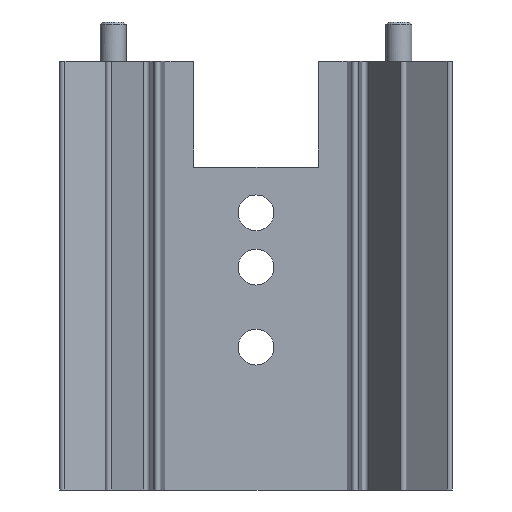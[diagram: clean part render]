
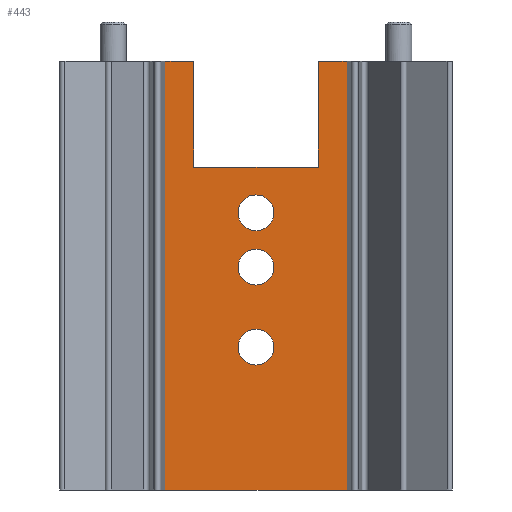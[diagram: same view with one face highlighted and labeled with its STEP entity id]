
A CAD part, front view. The second image highlights one B-rep face of the part: STEP entity #443.
In plain terms, the highlighted planar face has unit normal (0, -1, 0).
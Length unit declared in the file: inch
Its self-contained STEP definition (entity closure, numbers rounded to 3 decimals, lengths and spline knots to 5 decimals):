
#6 = LINE ( 'NONE', #3498, #2923 ) ;
#48 = LINE ( 'NONE', #1147, #2423 ) ;
#54 = ORIENTED_EDGE ( 'NONE', *, *, #3417, .F. ) ;
#69 = EDGE_LOOP ( 'NONE', ( #2694, #2538 ) ) ;
#80 = VERTEX_POINT ( 'NONE', #2569 ) ;
#83 = DIRECTION ( 'NONE',  ( 0., 1., 0. ) ) ;
#92 = VECTOR ( 'NONE', #341, 39.37008 ) ;
#98 = DIRECTION ( 'NONE',  ( 1., 0., 0. ) ) ;
#126 = LINE ( 'NONE', #2019, #676 ) ;
#131 = DIRECTION ( 'NONE',  ( 0., 0., 1. ) ) ;
#135 = DIRECTION ( 'NONE',  ( 1., 0., 0. ) ) ;
#180 = ORIENTED_EDGE ( 'NONE', *, *, #2188, .F. ) ;
#262 = EDGE_CURVE ( 'NONE', #3188, #423, #1806, .T. ) ;
#286 = VECTOR ( 'NONE', #1770, 39.37008 ) ;
#302 = DIRECTION ( 'NONE',  ( 1., 0., 0. ) ) ;
#320 = CARTESIAN_POINT ( 'NONE',  ( 0.2185, -0.03091, 0. ) ) ;
#341 = DIRECTION ( 'NONE',  ( 1., 0., 0. ) ) ;
#349 = EDGE_CURVE ( 'NONE', #1007, #2845, #48, .T. ) ;
#384 = CARTESIAN_POINT ( 'NONE',  ( -0.3189, -0.03091, -0.37008 ) ) ;
#417 = DIRECTION ( 'NONE',  ( 0., 1., 0. ) ) ;
#423 = VERTEX_POINT ( 'NONE', #2520 ) ;
#441 = AXIS2_PLACEMENT_3D ( 'NONE', #1205, #83, #2027 ) ;
#443 = ADVANCED_FACE ( 'NONE', ( #2247, #913, #3082, #2815 ), #1463, .T. ) ;
#464 = VERTEX_POINT ( 'NONE', #1018 ) ;
#537 = EDGE_CURVE ( 'NONE', #1072, #1319, #1730, .T. ) ;
#578 = DIRECTION ( 'NONE',  ( 0., 1., 0. ) ) ;
#597 = ORIENTED_EDGE ( 'NONE', *, *, #776, .T. ) ;
#676 = VECTOR ( 'NONE', #2846, 39.37008 ) ;
#688 = EDGE_LOOP ( 'NONE', ( #2523, #597 ) ) ;
#776 = EDGE_CURVE ( 'NONE', #423, #3188, #2031, .T. ) ;
#780 = LINE ( 'NONE', #3257, #3381 ) ;
#819 = DIRECTION ( 'NONE',  ( 0., 0., 1. ) ) ;
#839 = DIRECTION ( 'NONE',  ( 1., 0., 0. ) ) ;
#886 = CARTESIAN_POINT ( 'NONE',  ( 0.3189, -0.03091, -1.5 ) ) ;
#913 = FACE_BOUND ( 'NONE', #688, .T. ) ;
#955 = CARTESIAN_POINT ( 'NONE',  ( 0., -0.03091, -0.52992 ) ) ;
#957 = EDGE_CURVE ( 'NONE', #1319, #464, #3404, .T. ) ;
#978 = DIRECTION ( 'NONE',  ( 1., 0., 0. ) ) ;
#1007 = VERTEX_POINT ( 'NONE', #1778 ) ;
#1014 = ORIENTED_EDGE ( 'NONE', *, *, #3372, .T. ) ;
#1018 = CARTESIAN_POINT ( 'NONE',  ( 0.3189, -0.03091, 0. ) ) ;
#1072 = VERTEX_POINT ( 'NONE', #1232 ) ;
#1097 = ORIENTED_EDGE ( 'NONE', *, *, #3047, .T. ) ;
#1147 = CARTESIAN_POINT ( 'NONE',  ( -0.3189, -0.03091, 0. ) ) ;
#1155 = DIRECTION ( 'NONE',  ( 0., 1., 0. ) ) ;
#1164 = CIRCLE ( 'NONE', #2625, 0.0626 ) ;
#1184 = VERTEX_POINT ( 'NONE', #2715 ) ;
#1185 = CARTESIAN_POINT ( 'NONE',  ( -0.3189, -0.03091, -1.5 ) ) ;
#1192 = CARTESIAN_POINT ( 'NONE',  ( 0., -0.03091, -0.78268 ) ) ;
#1205 = CARTESIAN_POINT ( 'NONE',  ( 0., -0.03091, -1. ) ) ;
#1206 = DIRECTION ( 'NONE',  ( 0., 1., 0. ) ) ;
#1232 = CARTESIAN_POINT ( 'NONE',  ( -0.3189, -0.03091, -1.5 ) ) ;
#1319 = VERTEX_POINT ( 'NONE', #886 ) ;
#1348 = ORIENTED_EDGE ( 'NONE', *, *, #1413, .F. ) ;
#1413 = EDGE_CURVE ( 'NONE', #2845, #3363, #126, .T. ) ;
#1425 = ORIENTED_EDGE ( 'NONE', *, *, #957, .T. ) ;
#1463 = PLANE ( 'NONE',  #2137 ) ;
#1498 = AXIS2_PLACEMENT_3D ( 'NONE', #2444, #578, #302 ) ;
#1499 = AXIS2_PLACEMENT_3D ( 'NONE', #1776, #3423, #978 ) ;
#1522 = AXIS2_PLACEMENT_3D ( 'NONE', #955, #1155, #2273 ) ;
#1658 = EDGE_CURVE ( 'NONE', #3363, #3452, #1710, .T. ) ;
#1664 = EDGE_CURVE ( 'NONE', #3008, #1184, #2372, .T. ) ;
#1677 = CARTESIAN_POINT ( 'NONE',  ( 0.2185, -0.03091, -0.37008 ) ) ;
#1710 = LINE ( 'NONE', #384, #2317 ) ;
#1730 = LINE ( 'NONE', #1185, #92 ) ;
#1770 = DIRECTION ( 'NONE',  ( 1., 0., 0. ) ) ;
#1776 = CARTESIAN_POINT ( 'NONE',  ( 0., -0.03091, -1. ) ) ;
#1778 = CARTESIAN_POINT ( 'NONE',  ( -0.3189, -0.03091, 0. ) ) ;
#1794 = EDGE_LOOP ( 'NONE', ( #1348, #3160, #54, #2755, #1425, #180, #2439, #2007 ) ) ;
#1806 = CIRCLE ( 'NONE', #1522, 0.0626 ) ;
#2007 = ORIENTED_EDGE ( 'NONE', *, *, #1658, .F. ) ;
#2019 = CARTESIAN_POINT ( 'NONE',  ( -0.2185, -0.03091, -1.5 ) ) ;
#2027 = DIRECTION ( 'NONE',  ( 1., 0., 0. ) ) ;
#2031 = CIRCLE ( 'NONE', #2088, 0.0626 ) ;
#2088 = AXIS2_PLACEMENT_3D ( 'NONE', #2942, #417, #135 ) ;
#2137 = AXIS2_PLACEMENT_3D ( 'NONE', #2540, #3369, #98 ) ;
#2154 = DIRECTION ( 'NONE',  ( 1., 0., 0. ) ) ;
#2158 = DIRECTION ( 'NONE',  ( 0., 0., 1. ) ) ;
#2188 = EDGE_CURVE ( 'NONE', #3306, #464, #3142, .T. ) ;
#2247 = FACE_BOUND ( 'NONE', #69, .T. ) ;
#2273 = DIRECTION ( 'NONE',  ( 1., 0., 0. ) ) ;
#2317 = VECTOR ( 'NONE', #2795, 39.37008 ) ;
#2372 = CIRCLE ( 'NONE', #441, 0.0626 ) ;
#2414 = EDGE_LOOP ( 'NONE', ( #1097, #1014 ) ) ;
#2423 = VECTOR ( 'NONE', #839, 39.37008 ) ;
#2439 = ORIENTED_EDGE ( 'NONE', *, *, #3421, .F. ) ;
#2444 = CARTESIAN_POINT ( 'NONE',  ( 0., -0.03091, -0.72008 ) ) ;
#2520 = CARTESIAN_POINT ( 'NONE',  ( 0., -0.03091, -0.46732 ) ) ;
#2523 = ORIENTED_EDGE ( 'NONE', *, *, #262, .T. ) ;
#2538 = ORIENTED_EDGE ( 'NONE', *, *, #1664, .T. ) ;
#2540 = CARTESIAN_POINT ( 'NONE',  ( -0.3189, -0.03091, -1.5 ) ) ;
#2569 = CARTESIAN_POINT ( 'NONE',  ( 0., -0.03091, -0.65748 ) ) ;
#2593 = CARTESIAN_POINT ( 'NONE',  ( 0., -0.03091, -0.59252 ) ) ;
#2625 = AXIS2_PLACEMENT_3D ( 'NONE', #2820, #1206, #2154 ) ;
#2694 = ORIENTED_EDGE ( 'NONE', *, *, #3537, .T. ) ;
#2715 = CARTESIAN_POINT ( 'NONE',  ( 0., -0.03091, -1.0626 ) ) ;
#2755 = ORIENTED_EDGE ( 'NONE', *, *, #537, .T. ) ;
#2795 = DIRECTION ( 'NONE',  ( 1., 0., 0. ) ) ;
#2815 = FACE_OUTER_BOUND ( 'NONE', #1794, .T. ) ;
#2820 = CARTESIAN_POINT ( 'NONE',  ( 0., -0.03091, -0.72008 ) ) ;
#2845 = VERTEX_POINT ( 'NONE', #3418 ) ;
#2846 = DIRECTION ( 'NONE',  ( 0., 0., -1. ) ) ;
#2852 = VERTEX_POINT ( 'NONE', #1192 ) ;
#2918 = CARTESIAN_POINT ( 'NONE',  ( 0.3189, -0.03091, -1.5 ) ) ;
#2923 = VECTOR ( 'NONE', #819, 39.37008 ) ;
#2942 = CARTESIAN_POINT ( 'NONE',  ( 0., -0.03091, -0.52992 ) ) ;
#2989 = CIRCLE ( 'NONE', #1499, 0.0626 ) ;
#3008 = VERTEX_POINT ( 'NONE', #3163 ) ;
#3026 = CARTESIAN_POINT ( 'NONE',  ( -0.2185, -0.03091, -0.37008 ) ) ;
#3047 = EDGE_CURVE ( 'NONE', #2852, #80, #1164, .T. ) ;
#3082 = FACE_BOUND ( 'NONE', #2414, .T. ) ;
#3142 = LINE ( 'NONE', #3395, #286 ) ;
#3149 = CIRCLE ( 'NONE', #1498, 0.0626 ) ;
#3160 = ORIENTED_EDGE ( 'NONE', *, *, #349, .F. ) ;
#3163 = CARTESIAN_POINT ( 'NONE',  ( 0., -0.03091, -0.9374 ) ) ;
#3188 = VERTEX_POINT ( 'NONE', #2593 ) ;
#3231 = VECTOR ( 'NONE', #131, 39.37008 ) ;
#3257 = CARTESIAN_POINT ( 'NONE',  ( 0.2185, -0.03091, -1.5 ) ) ;
#3306 = VERTEX_POINT ( 'NONE', #320 ) ;
#3363 = VERTEX_POINT ( 'NONE', #3026 ) ;
#3369 = DIRECTION ( 'NONE',  ( 0., -1., 0. ) ) ;
#3372 = EDGE_CURVE ( 'NONE', #80, #2852, #3149, .T. ) ;
#3381 = VECTOR ( 'NONE', #2158, 39.37008 ) ;
#3395 = CARTESIAN_POINT ( 'NONE',  ( -0.3189, -0.03091, 0. ) ) ;
#3404 = LINE ( 'NONE', #2918, #3231 ) ;
#3417 = EDGE_CURVE ( 'NONE', #1072, #1007, #6, .T. ) ;
#3418 = CARTESIAN_POINT ( 'NONE',  ( -0.2185, -0.03091, 0. ) ) ;
#3421 = EDGE_CURVE ( 'NONE', #3452, #3306, #780, .T. ) ;
#3423 = DIRECTION ( 'NONE',  ( 0., 1., 0. ) ) ;
#3452 = VERTEX_POINT ( 'NONE', #1677 ) ;
#3498 = CARTESIAN_POINT ( 'NONE',  ( -0.3189, -0.03091, -1.5 ) ) ;
#3537 = EDGE_CURVE ( 'NONE', #1184, #3008, #2989, .T. ) ;
